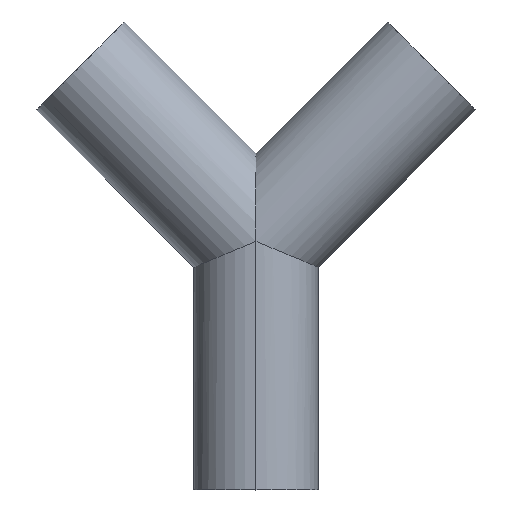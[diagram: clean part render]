
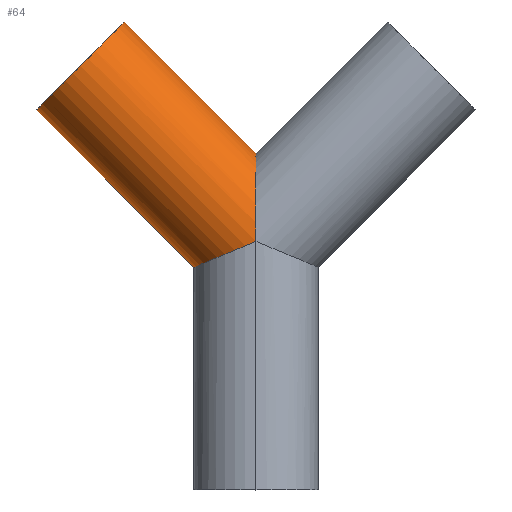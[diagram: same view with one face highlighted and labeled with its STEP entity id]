
A CAD part, top view. The second image highlights one B-rep face of the part: STEP entity #64.
In plain terms, the highlighted cylindrical face has radius 31.75 mm (diameter 63.5 mm), a partial arc.
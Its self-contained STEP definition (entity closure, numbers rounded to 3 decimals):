
#14 = EDGE_CURVE ( 'NONE', #267, #354, #96, .T. ) ;
#16 = DIRECTION ( 'NONE',  ( -0.707, -0.707, 0. ) ) ;
#22 = VERTEX_POINT ( 'NONE', #498 ) ;
#35 = CARTESIAN_POINT ( 'NONE',  ( 41.049, -85.951, 0. ) ) ;
#36 = EDGE_LOOP ( 'NONE', ( #78, #41, #135, #495, #309 ) ) ;
#41 = ORIENTED_EDGE ( 'NONE', *, *, #181, .T. ) ;
#44 = CYLINDRICAL_SURFACE ( 'NONE', #160, 31.75 ) ;
#49 = VERTEX_POINT ( 'NONE', #246 ) ;
#51 = DIRECTION ( 'NONE',  ( 0.707, -0.707, 0. ) ) ;
#56 = FACE_OUTER_BOUND ( 'NONE', #36, .T. ) ;
#64 = ADVANCED_FACE ( 'NONE', ( #56 ), #44, .T. ) ;
#78 = ORIENTED_EDGE ( 'NONE', *, *, #379, .T. ) ;
#92 = EDGE_CURVE ( 'NONE', #22, #125, #162, .T. ) ;
#96 = CIRCLE ( 'NONE', #99, 31.75 ) ;
#98 = CARTESIAN_POINT ( 'NONE',  ( -112.253, 67.352, 0. ) ) ;
#99 = AXIS2_PLACEMENT_3D ( 'NONE', #496, #51, #16 ) ;
#111 = LINE ( 'NONE', #359, #305 ) ;
#125 = VERTEX_POINT ( 'NONE', #431 ) ;
#135 = ORIENTED_EDGE ( 'NONE', *, *, #14, .T. ) ;
#150 = DIRECTION ( 'NONE',  ( -0.707, 0.707, 0. ) ) ;
#160 = AXIS2_PLACEMENT_3D ( 'NONE', #423, #150, #467 ) ;
#162 =( BOUNDED_CURVE ( )  B_SPLINE_CURVE ( 3, ( #189, #205, #281, #367 ),
 .UNSPECIFIED., .F., .T. ) 
 B_SPLINE_CURVE_WITH_KNOTS ( ( 4, 4 ),
 ( 1.571, 3.142 ),
 .UNSPECIFIED. ) 
 CURVE ( )  GEOMETRIC_REPRESENTATION_ITEM ( )  RATIONAL_B_SPLINE_CURVE ( ( 1., 0.805, 0.805, 1. ) ) 
 REPRESENTATION_ITEM ( '' )  );
#181 = EDGE_CURVE ( 'NONE', #49, #267, #111, .T. ) ;
#189 = CARTESIAN_POINT ( 'NONE',  ( 0., 0., 31.75 ) ) ;
#205 = CARTESIAN_POINT ( 'NONE',  ( -18.599, -7.704, 31.75 ) ) ;
#217 = CARTESIAN_POINT ( 'NONE',  ( 0., 44.901, 0. ) ) ;
#246 = CARTESIAN_POINT ( 'NONE',  ( 0., 44.901, 0. ) ) ;
#262 =( BOUNDED_CURVE ( )  B_SPLINE_CURVE ( 3, ( #418, #411, #459, #217 ),
 .UNSPECIFIED., .F., .T. ) 
 B_SPLINE_CURVE_WITH_KNOTS ( ( 4, 4 ),
 ( 4.712, 6.283 ),
 .UNSPECIFIED. ) 
 CURVE ( )  GEOMETRIC_REPRESENTATION_ITEM ( )  RATIONAL_B_SPLINE_CURVE ( ( 1., 0.805, 0.805, 1. ) ) 
 REPRESENTATION_ITEM ( '' )  );
#267 = VERTEX_POINT ( 'NONE', #408 ) ;
#278 = DIRECTION ( 'NONE',  ( -0.707, 0.707, 0. ) ) ;
#281 = CARTESIAN_POINT ( 'NONE',  ( -31.75, -13.151, 18.599 ) ) ;
#305 = VECTOR ( 'NONE', #278, 1000. ) ;
#308 = DIRECTION ( 'NONE',  ( -0.707, 0.707, 0. ) ) ;
#309 = ORIENTED_EDGE ( 'NONE', *, *, #92, .F. ) ;
#326 = LINE ( 'NONE', #35, #448 ) ;
#354 = VERTEX_POINT ( 'NONE', #98 ) ;
#359 = CARTESIAN_POINT ( 'NONE',  ( 85.951, -41.049, 0. ) ) ;
#367 = CARTESIAN_POINT ( 'NONE',  ( -31.75, -13.151, 0. ) ) ;
#379 = EDGE_CURVE ( 'NONE', #22, #49, #262, .T. ) ;
#408 = CARTESIAN_POINT ( 'NONE',  ( -67.352, 112.253, 0. ) ) ;
#411 = CARTESIAN_POINT ( 'NONE',  ( 0., 26.303, 31.75 ) ) ;
#418 = CARTESIAN_POINT ( 'NONE',  ( 0., 0., 31.75 ) ) ;
#420 = EDGE_CURVE ( 'NONE', #125, #354, #326, .T. ) ;
#423 = CARTESIAN_POINT ( 'NONE',  ( 63.5, -63.5, 0. ) ) ;
#431 = CARTESIAN_POINT ( 'NONE',  ( -31.75, -13.151, 0. ) ) ;
#448 = VECTOR ( 'NONE', #308, 1000. ) ;
#459 = CARTESIAN_POINT ( 'NONE',  ( 0., 44.901, 18.599 ) ) ;
#467 = DIRECTION ( 'NONE',  ( -0.707, -0.707, 0. ) ) ;
#495 = ORIENTED_EDGE ( 'NONE', *, *, #420, .F. ) ;
#496 = CARTESIAN_POINT ( 'NONE',  ( -89.803, 89.803, 0. ) ) ;
#498 = CARTESIAN_POINT ( 'NONE',  ( 0., 0., 31.75 ) ) ;
